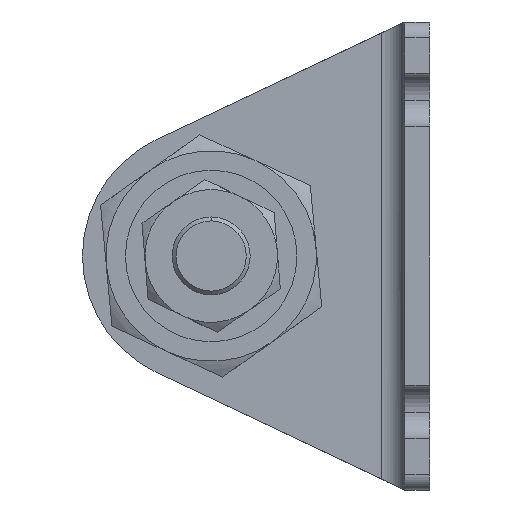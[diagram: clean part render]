
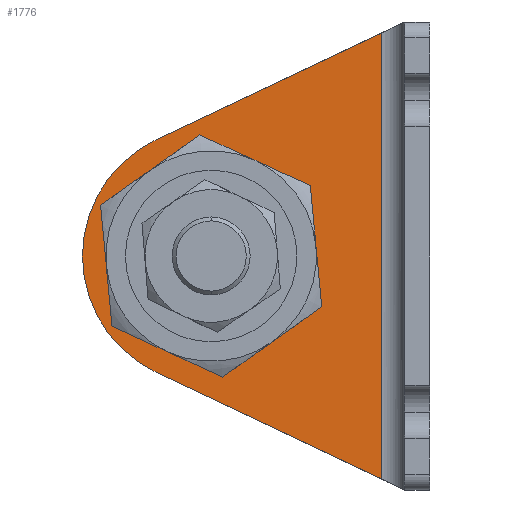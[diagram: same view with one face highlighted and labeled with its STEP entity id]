
A CAD part, left-side view. The second image highlights one B-rep face of the part: STEP entity #1776.
In plain terms, the highlighted planar face has unit normal (-1, 0, 0) as drawn and (1, 0, 0) by its records, which use the part's own axes.
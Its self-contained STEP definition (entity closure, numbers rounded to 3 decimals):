
#72 = ORIENTED_EDGE ( 'NONE', *, *, #385, .T. ) ;
#88 = EDGE_CURVE ( 'NONE', #1495, #1789, #2751, .T. ) ;
#112 = DIRECTION ( 'NONE',  ( 0., 1., 0. ) ) ;
#253 = VERTEX_POINT ( 'NONE', #3079 ) ;
#385 = EDGE_CURVE ( 'NONE', #1001, #1495, #3032, .T. ) ;
#477 = EDGE_LOOP ( 'NONE', ( #3817, #3647, #72, #2489, #3199 ) ) ;
#502 = CIRCLE ( 'NONE', #836, 11.5 ) ;
#595 = DIRECTION ( 'NONE',  ( 0., 1., 0. ) ) ;
#708 = VERTEX_POINT ( 'NONE', #2313 ) ;
#836 = AXIS2_PLACEMENT_3D ( 'NONE', #1029, #3468, #2319 ) ;
#893 = DIRECTION ( 'NONE',  ( 0., 0., -1. ) ) ;
#909 = CARTESIAN_POINT ( 'NONE',  ( 3.2, 44.5, -30. ) ) ;
#915 = EDGE_LOOP ( 'NONE', ( #1038, #3910 ) ) ;
#1001 = VERTEX_POINT ( 'NONE', #1069 ) ;
#1029 = CARTESIAN_POINT ( 'NONE',  ( 3.2, 28., -30. ) ) ;
#1038 = ORIENTED_EDGE ( 'NONE', *, *, #2373, .F. ) ;
#1060 = DIRECTION ( 'NONE',  ( 1., 0., 0. ) ) ;
#1069 = CARTESIAN_POINT ( 'NONE',  ( 3.2, 6.2, -58.579 ) ) ;
#1188 = CARTESIAN_POINT ( 'NONE',  ( 3.2, 3.2, -60. ) ) ;
#1259 = CARTESIAN_POINT ( 'NONE',  ( 3.2, 6.2, -60. ) ) ;
#1311 = CIRCLE ( 'NONE', #3160, 11.5 ) ;
#1365 = DIRECTION ( 'NONE',  ( 0., 1., 0. ) ) ;
#1477 = VECTOR ( 'NONE', #1622, 1000. ) ;
#1495 = VERTEX_POINT ( 'NONE', #1577 ) ;
#1577 = CARTESIAN_POINT ( 'NONE',  ( 3.2, 35.062, -44.913 ) ) ;
#1622 = DIRECTION ( 'NONE',  ( 0., 0.904, 0.428 ) ) ;
#1751 = LINE ( 'NONE', #1958, #2010 ) ;
#1756 = FACE_BOUND ( 'NONE', #915, .T. ) ;
#1776 = ADVANCED_FACE ( 'NONE', ( #2813, #1756 ), #3913, .T. ) ;
#1783 = CARTESIAN_POINT ( 'NONE',  ( 3.2, 16.5, -30. ) ) ;
#1789 = VERTEX_POINT ( 'NONE', #909 ) ;
#1958 = CARTESIAN_POINT ( 'NONE',  ( 3.2, 26.408, -10.99 ) ) ;
#2010 = VECTOR ( 'NONE', #3788, 1000. ) ;
#2056 = AXIS2_PLACEMENT_3D ( 'NONE', #1188, #3666, #595 ) ;
#2298 = DIRECTION ( 'NONE',  ( 1., 0., 0. ) ) ;
#2313 = CARTESIAN_POINT ( 'NONE',  ( 3.2, 35.062, -15.087 ) ) ;
#2319 = DIRECTION ( 'NONE',  ( 0., 1., 0. ) ) ;
#2373 = EDGE_CURVE ( 'NONE', #253, #2678, #502, .T. ) ;
#2377 = CARTESIAN_POINT ( 'NONE',  ( 3.2, 28., -30. ) ) ;
#2396 = EDGE_CURVE ( 'NONE', #3010, #708, #1751, .T. ) ;
#2489 = ORIENTED_EDGE ( 'NONE', *, *, #88, .T. ) ;
#2568 = LINE ( 'NONE', #1259, #2615 ) ;
#2615 = VECTOR ( 'NONE', #893, 1000. ) ;
#2678 = VERTEX_POINT ( 'NONE', #1783 ) ;
#2751 = CIRCLE ( 'NONE', #3395, 16.5 ) ;
#2807 = CARTESIAN_POINT ( 'NONE',  ( 3.2, 3.2, -60. ) ) ;
#2813 = FACE_OUTER_BOUND ( 'NONE', #477, .T. ) ;
#3010 = VERTEX_POINT ( 'NONE', #3549 ) ;
#3032 = LINE ( 'NONE', #2807, #1477 ) ;
#3079 = CARTESIAN_POINT ( 'NONE',  ( 3.2, 39.5, -30. ) ) ;
#3160 = AXIS2_PLACEMENT_3D ( 'NONE', #3273, #3588, #112 ) ;
#3184 = EDGE_CURVE ( 'NONE', #2678, #253, #1311, .T. ) ;
#3199 = ORIENTED_EDGE ( 'NONE', *, *, #3337, .T. ) ;
#3273 = CARTESIAN_POINT ( 'NONE',  ( 3.2, 28., -30. ) ) ;
#3337 = EDGE_CURVE ( 'NONE', #1789, #708, #3404, .T. ) ;
#3395 = AXIS2_PLACEMENT_3D ( 'NONE', #2377, #2298, #3489 ) ;
#3404 = CIRCLE ( 'NONE', #3704, 16.5 ) ;
#3468 = DIRECTION ( 'NONE',  ( 1., 0., 0. ) ) ;
#3489 = DIRECTION ( 'NONE',  ( 0., 1., 0. ) ) ;
#3516 = EDGE_CURVE ( 'NONE', #3010, #1001, #2568, .T. ) ;
#3549 = CARTESIAN_POINT ( 'NONE',  ( 3.2, 6.2, -1.421 ) ) ;
#3588 = DIRECTION ( 'NONE',  ( 1., 0., 0. ) ) ;
#3647 = ORIENTED_EDGE ( 'NONE', *, *, #3516, .T. ) ;
#3666 = DIRECTION ( 'NONE',  ( 1., 0., 0. ) ) ;
#3704 = AXIS2_PLACEMENT_3D ( 'NONE', #3776, #1060, #1365 ) ;
#3776 = CARTESIAN_POINT ( 'NONE',  ( 3.2, 28., -30. ) ) ;
#3788 = DIRECTION ( 'NONE',  ( 0., 0.904, -0.428 ) ) ;
#3817 = ORIENTED_EDGE ( 'NONE', *, *, #2396, .F. ) ;
#3910 = ORIENTED_EDGE ( 'NONE', *, *, #3184, .F. ) ;
#3913 = PLANE ( 'NONE',  #2056 ) ;
